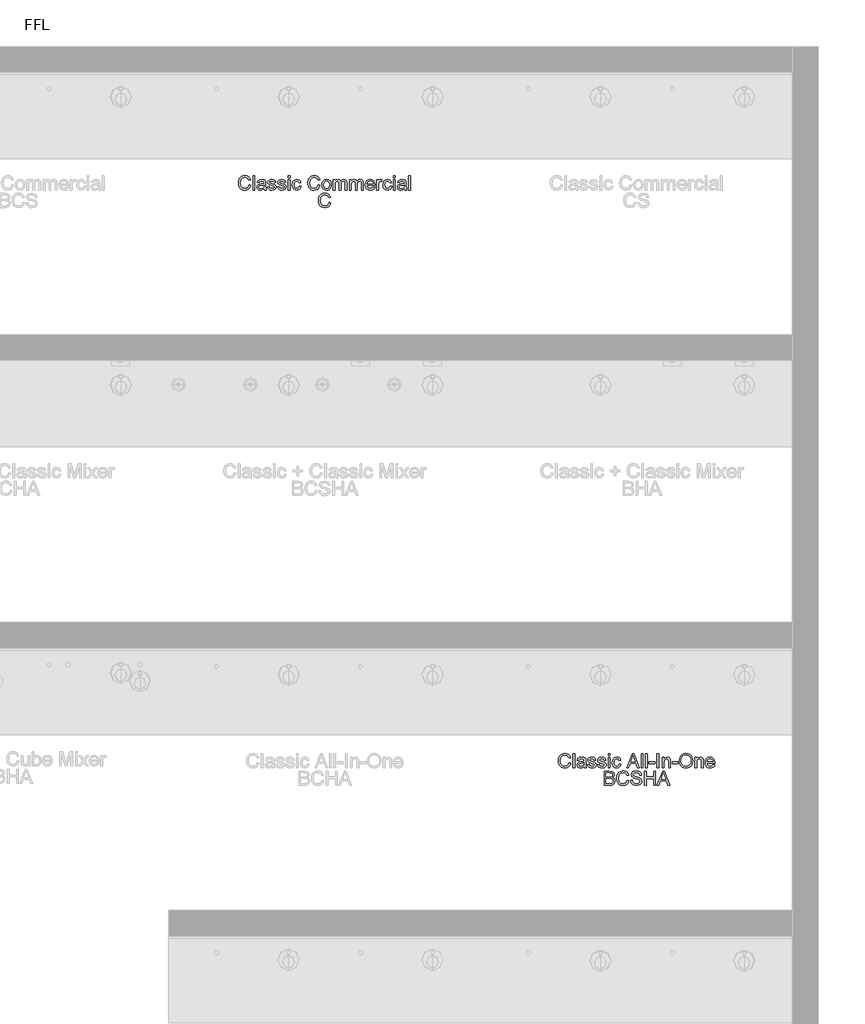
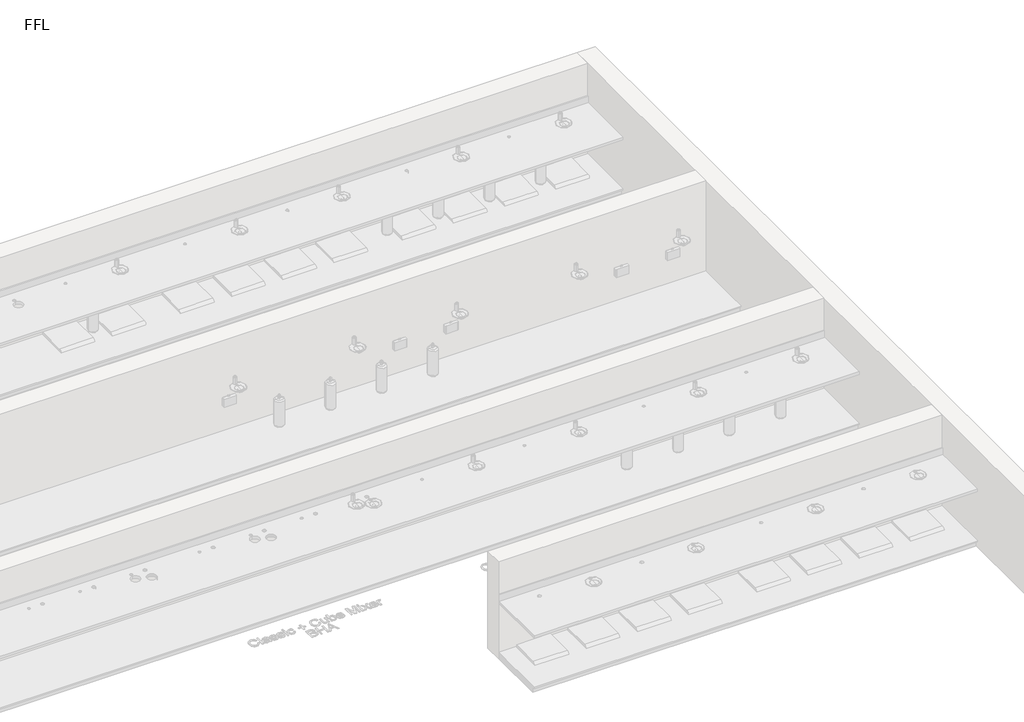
# One storey, part 12 of 13: 2 proxies.
"""IFC4 building model written with IfcOpenShell, lengths in millimetres."""

from ifc_helpers import new_model, si_unit, origin, origin_with_axes, place, context, project, spatial, polyline, outline, extrude, element, save

model = new_model("IFC4")

# Units and contexts
model_context = context("Model", 3, world=origin())
ifc_project = project(units=[si_unit("LENGTHUNIT", "METRE", prefix="MILLI")], contexts=[model_context])

# Site, building, storey
site = spatial("IfcSite", under=ifc_project)
building = spatial("IfcBuilding", under=site)
storey = spatial("IfcBuildingStorey", under=building, Name="FFL", Elevation=0.0)

# Proxies
placement = place(None, origin())
element("IfcBuildingElementProxy", 1, Name="150mm Arial", ObjectType="150mm Arial", at=placement, inside=storey, context=model_context, shape_type="SweptSolid", body=[
    extrude(outline(polyline([(10202.5723994, 657.2518309), (10221.0339379, 652.4922155), (10212.5153081, 630.9792948), (10199.1469187, 615.2626482), (10181.5868225, 605.648766), (10160.4930725, 602.4441386), (10139.0793105, 604.8690184), (10122.0736014, 612.1436578), (10109.0387456, 624.015653), (10099.5375437, 640.2326001), (10093.7367624, 659.2981049), (10091.8031687, 679.7157732), (10093.9891663, 701.2512299), (10100.5471591, 719.8479847), (10111.134599, 734.9155929), (10125.4089379, 745.8636097), (10142.3380244, 752.5297756), (10160.8897071, 754.7518309), (10181.1315941, 751.8762299), (10197.8668706, 743.249427), (10210.5726999, 729.4032732), (10218.7262456, 710.8696193), (10200.2647071, 706.4705809), (10193.8644667, 719.9336217), (10185.1204764, 729.1688982), (10173.9245629, 734.5099439), (10160.1685533, 736.2902924), (10144.3121831, 734.3161338), (10131.2863417, 728.3936578), (10121.4020268, 719.1448597), (10114.970236, 707.1917347), (10110.2647071, 679.7518309), (10115.8356206, 647.9489463), (10122.9570148, 636.0724439), (10133.1793706, 627.6304367), (10145.4344788, 622.5868669), (10158.6541302, 620.905677), (10174.0642865, 623.1953405), (10186.9053321, 630.0643309), (10196.6003441, 641.4405328), (10202.5723994, 657.2518309)])), origin_with_axes(), (0.0, 0.0, 1.0), 5.0),
    extrude(outline(polyline([(10244.110861, 604.7518309), (10244.110861, 752.4441386), (10262.5723994, 752.4441386), (10262.5723994, 604.7518309), (10244.110861, 604.7518309)])), origin_with_axes(), (0.0, 0.0, 1.0), 5.0),
    extrude(outline(polyline([(10359.4954764, 618.5979847), (10341.5928321, 606.0859655), (10321.8151879, 602.4441386), (10306.3870028, 604.6346434), (10295.0062937, 611.2061578), (10287.9885653, 621.1851242), (10285.6493225, 633.5979847), (10289.1829764, 648.2013501), (10298.4678321, 658.8023117), (10311.3945148, 664.860004), (10327.3680725, 667.6364463), (10359.3873033, 673.9826001), (10359.4954764, 678.093177), (10358.2244427, 686.3323597), (10354.4113417, 691.7229847), (10345.8836975, 695.7253886), (10334.0026879, 697.0595232), (10315.3248033, 693.5078405), (10306.4185533, 680.905677), (10287.9570148, 683.2133693), (10295.9437937, 701.2422155), (10312.0255244, 711.8071193), (10336.3824956, 715.5210617), (10358.7562937, 712.2398117), (10371.3945148, 704.000629), (10377.0555725, 691.4705809), (10377.9570148, 675.3167347), (10377.9570148, 652.3479847), (10378.8945148, 620.2746674), (10382.5723994, 604.7518309), (10364.110861, 604.7518309), (10359.4954764, 618.5979847)]), holes=[polyline([(10359.4954764, 655.5210617), (10329.7118225, 649.860004), (10313.8284091, 646.8672155), (10306.6348994, 641.999427), (10304.110861, 634.8960617), (10309.6096591, 624.9080809), (10325.7454764, 620.905677), (10344.423361, 625.3227443), (10356.4666302, 636.0138501), (10359.3873033, 650.2926963), (10359.4954764, 655.5210617)])]), origin_with_axes(), (0.0, 0.0, 1.0), 5.0),
    extrude(outline(polyline([(10396.4185533, 637.0595232), (10414.8800917, 639.3672155), (10417.7917504, 631.4705809), (10423.4257648, 625.6652924), (10443.0050917, 620.905677), (10461.8272071, 625.2686578), (10467.9570148, 635.5090424), (10461.7911494, 643.8023117), (10442.7887456, 649.0667347), (10414.9882648, 658.0991867), (10402.8548514, 668.6460617), (10398.7262456, 683.5378886), (10402.0435533, 697.2938982), (10411.0940341, 707.8047155), (10422.8308129, 713.2674559), (10438.7142264, 715.5210617), (10461.1781687, 711.8972636), (10475.4570148, 702.0895713), (10481.8031687, 685.5210617), (10463.3416302, 683.2133693), (10456.4005244, 693.3996674), (10440.1565341, 697.0595232), (10422.4882648, 693.561927), (10417.1877841, 685.4128886), (10419.3873033, 680.0402924), (10426.2743225, 675.9657732), (10442.1757648, 672.0354847), (10469.2731206, 663.3455809), (10481.8572552, 653.5018309), (10486.4185533, 637.4561578), (10481.063986, 619.7878886), (10465.6132648, 606.969379), (10442.7526879, 602.4441386), (10424.1379042, 604.625629), (10410.5531687, 611.1701001), (10401.4846591, 622.0054367), (10396.4185533, 637.0595232)])), origin_with_axes(), (0.0, 0.0, 1.0), 5.0),
    extrude(outline(polyline([(10500.2647071, 637.0595232), (10518.7262456, 639.3672155), (10521.6379042, 631.4705809), (10527.2719187, 625.6652924), (10546.8512456, 620.905677), (10565.673361, 625.2686578), (10571.8031687, 635.5090424), (10565.6373033, 643.8023117), (10546.6348994, 649.0667347), (10518.8344187, 658.0991867), (10506.7010052, 668.6460617), (10502.5723994, 683.5378886), (10505.8897071, 697.2938982), (10514.9401879, 707.8047155), (10526.6769667, 713.2674559), (10542.5603802, 715.5210617), (10565.0243225, 711.8972636), (10579.3031687, 702.0895713), (10585.6493225, 685.5210617), (10567.1877841, 683.2133693), (10560.2466783, 693.3996674), (10544.0026879, 697.0595232), (10526.3344187, 693.561927), (10521.0339379, 685.4128886), (10523.2334571, 680.0402924), (10530.1204764, 675.9657732), (10546.0219187, 672.0354847), (10573.1192744, 663.3455809), (10585.7034091, 653.5018309), (10590.2647071, 637.4561578), (10584.9101398, 619.7878886), (10569.4594187, 606.969379), (10546.5988417, 602.4441386), (10527.9840581, 604.625629), (10514.3993225, 611.1701001), (10505.3308129, 622.0054367), (10500.2647071, 637.0595232)])), origin_with_axes(), (0.0, 0.0, 1.0), 5.0),
    extrude(outline(polyline([(10611.0339379, 604.7518309), (10611.0339379, 713.2133693), (10629.4954764, 713.2133693), (10629.4954764, 604.7518309), (10611.0339379, 604.7518309)])), origin_with_axes(), (0.0, 0.0, 1.0), 5.0),
    extrude(outline(polyline([(10611.0339379, 733.9826001), (10611.0339379, 752.4441386), (10629.4954764, 752.4441386), (10629.4954764, 733.9826001), (10611.0339379, 733.9826001)])), origin_with_axes(), (0.0, 0.0, 1.0), 5.0),
    extrude(outline(polyline([(10726.4185533, 643.9826001), (10744.8800917, 641.6749078), (10739.7328562, 625.2551362), (10730.0603802, 612.8467828), (10716.7731206, 605.0447996), (10700.7815341, 602.4441386), (10681.1436134, 606.0724439), (10665.7875437, 616.9573597), (10655.8761855, 634.6211217), (10652.5723994, 658.5859655), (10658.2154283, 689.2530328), (10665.3368225, 700.7509294), (10675.4149475, 708.9585617), (10687.4717384, 713.8804367), (10700.5291302, 715.5210617), (10716.1285893, 713.2674559), (10728.6000437, 706.5066386), (10737.5468586, 695.5991867), (10742.5723994, 680.905677), (10724.110861, 678.5979847), (10715.5471591, 692.4261097), (10700.673361, 697.0595232), (10688.742772, 694.7788742), (10679.2731206, 687.936927), (10673.0937336, 676.1640905), (10671.0339379, 659.0907732), (10673.0486615, 641.7875881), (10679.0928321, 629.9741867), (10688.3912095, 623.1728044), (10700.1685533, 620.905677), (10709.728349, 622.3209415), (10717.5663898, 626.5667347), (10723.2680124, 633.7512299), (10726.4185533, 643.9826001)])), origin_with_axes(), (0.0, 0.0, 1.0), 5.0),
    extrude(outline(polyline([(10803.8344187, 604.7518309), (10862.7887456, 752.4441386), (10878.5098994, 752.4441386), (10937.4642264, 604.7518309), (10917.9570148, 604.7518309), (10901.0459571, 650.905677), (10840.2166302, 650.905677), (10823.3416302, 604.7518309), (10803.8344187, 604.7518309)]), holes=[polyline([(10846.9954764, 669.3672155), (10894.3031687, 669.3672155), (10880.9978802, 705.6773117), (10870.6493225, 733.9826001), (10861.454611, 708.8503886), (10846.9954764, 669.3672155)])]), origin_with_axes(), (0.0, 0.0, 1.0), 5.0),
    extrude(outline(polyline([(10954.8800917, 604.7518309), (10954.8800917, 752.4441386), (10973.3416302, 752.4441386), (10973.3416302, 604.7518309), (10954.8800917, 604.7518309)])), origin_with_axes(), (0.0, 0.0, 1.0), 5.0),
    extrude(outline(polyline([(11001.0339379, 604.7518309), (11001.0339379, 752.4441386), (11019.4954764, 752.4441386), (11019.4954764, 604.7518309), (11001.0339379, 604.7518309)])), origin_with_axes(), (0.0, 0.0, 1.0), 5.0),
    extrude(outline(polyline([(11037.9570148, 648.5979847), (11037.9570148, 667.0595232), (11095.6493225, 667.0595232), (11095.6493225, 648.5979847), (11037.9570148, 648.5979847)])), origin_with_axes(), (0.0, 0.0, 1.0), 5.0),
    extrude(outline(polyline([(11121.0339379, 604.7518309), (11121.0339379, 752.4441386), (11139.4954764, 752.4441386), (11139.4954764, 604.7518309), (11121.0339379, 604.7518309)])), origin_with_axes(), (0.0, 0.0, 1.0), 5.0),
    extrude(outline(polyline([(11174.110861, 604.7518309), (11174.110861, 713.2133693), (11192.5723994, 713.2133693), (11192.5723994, 698.0691386), (11206.688986, 711.1580809), (11225.9618225, 715.5210617), (11243.3957167, 712.0054367), (11255.2947552, 702.7746674), (11260.829611, 689.1989463), (11261.8031687, 671.3503886), (11261.8031687, 604.7518309), (11243.3416302, 604.7518309), (11243.3416302, 668.8624078), (11241.2142264, 685.1965424), (11233.6961975, 693.8323597), (11221.0219187, 697.0595232), (11210.2091182, 695.2476242), (11200.9918706, 689.811927), (11194.6772672, 679.3101242), (11192.5723994, 662.2999078), (11192.5723994, 604.7518309), (11174.110861, 604.7518309)])), origin_with_axes(), (0.0, 0.0, 1.0), 5.0),
    extrude(outline(polyline([(11277.9570148, 648.5979847), (11277.9570148, 667.0595232), (11335.6493225, 667.0595232), (11335.6493225, 648.5979847), (11277.9570148, 648.5979847)])), origin_with_axes(), (0.0, 0.0, 1.0), 5.0),
    extrude(outline(polyline([(11351.8031687, 676.6508693), (11356.7250437, 709.3101242), (11371.4906687, 734.0186578), (11394.0357408, 749.5685376), (11422.2959571, 754.7518309), (11441.6679523, 752.3179367), (11459.0387456, 745.016254), (11473.4618225, 733.3606049), (11483.9906687, 717.8648117), (11490.4269667, 699.2770713), (11492.5723994, 678.3455809), (11490.3142865, 657.1346434), (11483.5399475, 638.2854847), (11472.6234812, 622.7626482), (11457.938986, 611.530677), (11440.7169307, 604.7157732), (11422.1877841, 602.4441386), (11402.5183129, 604.9546554), (11385.048361, 612.4862059), (11370.6613417, 624.3582011), (11360.2406687, 639.890052), (11353.9125437, 657.7611458), (11351.8031687, 676.6508693)]), holes=[polyline([(11370.2647071, 676.4705809), (11373.9561134, 653.3666145), (11385.0303321, 635.7614463), (11401.6754643, 624.6196193), (11422.079611, 620.905677), (11442.7812336, 624.655677), (11459.4534091, 635.905677), (11470.446498, 654.0517107), (11474.110861, 678.4898117), (11472.5423514, 694.8329607), (11467.8368225, 708.9585617), (11460.1159691, 720.5105448), (11449.501486, 729.1328405), (11436.696498, 734.5009294), (11422.4041302, 736.2902924), (11402.5453562, 732.8422756), (11385.6613417, 722.4982251), (11374.1138658, 704.0952804), (11370.2647071, 676.4705809)])]), origin_with_axes(), (0.0, 0.0, 1.0), 5.0),
    extrude(outline(polyline([(11515.6493225, 604.7518309), (11515.6493225, 713.2133693), (11534.110861, 713.2133693), (11534.110861, 698.0691386), (11548.2274475, 711.1580809), (11567.5002841, 715.5210617), (11584.9341783, 712.0054367), (11596.8332167, 702.7746674), (11602.3680725, 689.1989463), (11603.3416302, 671.3503886), (11603.3416302, 604.7518309), (11584.8800917, 604.7518309), (11584.8800917, 668.8624078), (11582.7526879, 685.1965424), (11575.2346591, 693.8323597), (11562.5603802, 697.0595232), (11551.7475797, 695.2476242), (11542.5303321, 689.811927), (11536.2157288, 679.3101242), (11534.110861, 662.2999078), (11534.110861, 604.7518309), (11515.6493225, 604.7518309)])), origin_with_axes(), (0.0, 0.0, 1.0), 5.0),
    extrude(outline(polyline([(11704.6637456, 637.0595232), (11722.7647071, 634.7518309), (11716.242772, 621.1130088), (11705.8356206, 610.9176963), (11691.7776278, 604.562528), (11674.3031687, 602.4441386), (11652.64151, 606.0994871), (11635.9738417, 617.0655328), (11625.3458369, 634.6301362), (11621.8031687, 658.0811578), (11625.3818946, 682.3209415), (11636.1180725, 700.4489463), (11652.5603802, 711.7530328), (11673.2574956, 715.5210617), (11693.3100797, 711.7620472), (11709.3332167, 700.485004), (11719.8395268, 682.3930568), (11723.3416302, 658.1893309), (11723.2334571, 653.2133693), (11640.2647071, 653.2133693), (11643.4603201, 639.3942588), (11650.8836975, 629.235004), (11661.5973393, 622.9880088), (11674.6637456, 620.905677), (11692.7647071, 624.7638501), (11704.6637456, 637.0595232)]), holes=[polyline([(11640.2647071, 671.6749078), (11704.8800917, 671.6749078), (11702.3830966, 681.4285136), (11697.4882648, 688.405677), (11686.7250437, 694.8960617), (11673.1853802, 697.0595232), (11660.7409691, 695.3332612), (11650.4510052, 690.1544751), (11643.2980605, 682.0820592), (11640.2647071, 671.6749078)])]), origin_with_axes(), (0.0, 0.0, 1.0), 5.0),
    extrude(outline(polyline([(10569.4954764, 422.4441386), (10569.4954764, 570.1364463), (10625.8536494, 570.1364463), (10653.4558129, 565.7914943), (10662.7316542, 560.2791746), (10669.7538898, 552.4321193), (10675.6493225, 533.5378886), (10670.6913898, 516.2842828), (10655.7094187, 503.2133693), (10666.1706566, 497.750629), (10673.9005244, 489.4393309), (10678.6736615, 478.8293549), (10680.2647071, 466.4705809), (10675.9197552, 446.6208213), (10665.1565341, 432.4862059), (10649.0928321, 424.9862059), (10625.4209571, 422.4441386), (10569.4954764, 422.4441386)]), holes=[polyline([(10587.9570148, 440.905677), (10625.8175917, 440.905677), (10639.5195148, 441.6268309), (10651.1120629, 445.6472636), (10658.7923514, 453.8503886), (10661.8031687, 466.2902924), (10658.2695148, 480.641254), (10646.8211975, 489.2049559), (10624.0147071, 491.6749078), (10587.9570148, 491.6749078), (10587.9570148, 440.905677)]), polyline([(10587.9570148, 510.1364463), (10621.6709571, 510.1364463), (10641.3584571, 511.7229847), (10653.2034091, 518.5559174), (10657.1877841, 530.5811578), (10653.4738417, 542.624427), (10642.8368225, 549.7458213), (10619.110861, 551.6749078), (10587.9570148, 551.6749078), (10587.9570148, 510.1364463)])]), origin_with_axes(), (0.0, 0.0, 1.0), 5.0),
    extrude(outline(polyline([(10809.4954764, 474.9441386), (10827.9570148, 470.1845232), (10819.438385, 448.6716025), (10806.0699956, 432.9549559), (10788.5098994, 423.3410737), (10767.4161494, 420.1364463), (10746.0023874, 422.5613261), (10728.9966783, 429.8359655), (10715.9618225, 441.7079607), (10706.4606206, 457.9249078), (10700.6598393, 476.9904126), (10698.7262456, 497.4080809), (10700.9122432, 518.9435376), (10707.470236, 537.5402924), (10718.0576759, 552.6079006), (10732.3320148, 563.5559174), (10749.2611014, 570.2220833), (10767.8127841, 572.4441386), (10788.0546711, 569.5685376), (10804.7899475, 560.9417347), (10817.4957768, 547.0955809), (10825.6493225, 528.561927), (10807.1877841, 524.1628886), (10800.7875437, 537.6259294), (10792.0435533, 546.8612059), (10780.8476398, 552.2022516), (10767.0916302, 553.9826001), (10751.23526, 552.0084415), (10738.2094187, 546.0859655), (10728.3251038, 536.8371674), (10721.8933129, 524.8840424), (10717.1877841, 497.4441386), (10722.7586975, 465.641254), (10729.8800917, 453.7647516), (10740.1024475, 445.3227443), (10752.3575557, 440.2791746), (10765.5772071, 438.5979847), (10780.9873634, 440.8876482), (10793.8284091, 447.7566386), (10803.5234211, 459.1328405), (10809.4954764, 474.9441386)])), origin_with_axes(), (0.0, 0.0, 1.0), 5.0),
    extrude(outline(polyline([(10846.4185533, 473.2133693), (10864.8800917, 473.2133693), (10870.829611, 454.733802), (10885.360861, 443.0511097), (10907.5002841, 438.5979847), (10926.7911494, 441.969379), (10939.2490821, 451.2362059), (10943.3416302, 463.6220232), (10940.2767264, 475.1424559), (10927.7286494, 483.5258693), (10900.8476398, 490.5751482), (10871.9113417, 499.6797155), (10856.2082167, 513.4176963), (10851.0339379, 531.7710617), (10852.633998, 542.5838621), (10857.4341783, 552.6664943), (10865.3082768, 561.2121674), (10876.1300917, 567.4140905), (10903.4978802, 572.4441386), (10932.704611, 567.1797155), (10943.9005244, 560.6803165), (10952.1757648, 551.7109655), (10957.4131446, 540.8305568), (10959.4954764, 528.5979847), (10941.0339379, 528.5979847), (10937.6445148, 539.6136097), (10930.5772071, 547.5643309), (10919.5345389, 552.3780328), (10904.2190341, 553.9826001), (10888.5429523, 552.3960617), (10877.7887456, 547.6364463), (10871.5687937, 540.6322395), (10869.4954764, 532.311927), (10870.9648273, 525.2175761), (10875.3728802, 519.5114463), (10905.517111, 509.1989463), (10938.1853802, 499.9321193), (10948.7097191, 493.234403), (10956.0519667, 484.968177), (10961.8031687, 464.0907732), (10960.149022, 452.7100641), (10955.1865821, 442.0054367), (10947.1186735, 432.7926963), (10936.1481206, 425.8876482), (10908.2214379, 420.1364463), (10890.133998, 421.686927), (10875.2466783, 426.3383693), (10863.3882047, 434.108802), (10854.3873033, 445.016254), (10848.6090581, 458.3035136), (10846.4185533, 473.2133693)])), origin_with_axes(), (0.0, 0.0, 1.0), 5.0),
    extrude(outline(polyline([(10989.4954764, 422.4441386), (10989.4954764, 570.1364463), (11007.9570148, 570.1364463), (11007.9570148, 510.1364463), (11086.4185533, 510.1364463), (11086.4185533, 570.1364463), (11104.8800917, 570.1364463), (11104.8800917, 422.4441386), (11086.4185533, 422.4441386), (11086.4185533, 491.6749078), (11007.9570148, 491.6749078), (11007.9570148, 422.4441386), (10989.4954764, 422.4441386)])), origin_with_axes(), (0.0, 0.0, 1.0), 5.0),
    extrude(outline(polyline([(11119.9882648, 422.4441386), (11178.9425917, 570.1364463), (11194.6637456, 570.1364463), (11253.6180725, 422.4441386), (11234.110861, 422.4441386), (11217.1998033, 468.5979847), (11156.3704764, 468.5979847), (11139.4954764, 422.4441386), (11119.9882648, 422.4441386)]), holes=[polyline([(11163.1493225, 487.0595232), (11210.4570148, 487.0595232), (11197.1517264, 523.3696193), (11186.8031687, 551.6749078), (11177.6084571, 526.5426963), (11163.1493225, 487.0595232)])]), origin_with_axes(), (0.0, 0.0, 1.0), 5.0),
])
element("IfcBuildingElementProxy", 2, Name="150mm Arial", ObjectType="150mm Arial", at=placement, inside=storey, context=model_context, shape_type="SweptSolid", body=[
    extrude(outline(polyline([(6867.1877841, 6676.3018309), (6885.6493225, 6671.5422155), (6877.1306927, 6650.0292948), (6863.7623033, 6634.3126482), (6846.2022071, 6624.698766), (6825.1084571, 6621.4941386), (6803.6946951, 6623.9190184), (6786.688986, 6631.1936578), (6773.6541302, 6643.065653), (6764.1529283, 6659.2826001), (6758.352147, 6678.3481049), (6756.4185533, 6698.7657732), (6758.6045509, 6720.3012299), (6765.1625437, 6738.8979847), (6775.7499836, 6753.9655929), (6790.0243225, 6764.9136097), (6806.9534091, 6771.5797756), (6825.5050917, 6773.8018309), (6845.7469788, 6770.9262299), (6862.4822552, 6762.299427), (6875.1880845, 6748.4532732), (6883.3416302, 6729.9196193), (6864.8800917, 6725.5205809), (6858.4798514, 6738.9836217), (6849.735861, 6748.2188982), (6838.5399475, 6753.5599439), (6824.7839379, 6755.3402924), (6808.9275677, 6753.3661338), (6795.9017264, 6747.4436578), (6786.0174115, 6738.1948597), (6779.5856206, 6726.2417347), (6774.8800917, 6698.8018309), (6780.4510052, 6666.9989463), (6787.5723994, 6655.1224439), (6797.7947552, 6646.6804367), (6810.0498634, 6641.6368669), (6823.2695148, 6639.955677), (6838.6796711, 6642.2453405), (6851.5207167, 6649.1143309), (6861.2157288, 6660.4905328), (6867.1877841, 6676.3018309)])), origin_with_axes(), (0.0, 0.0, 1.0), 5.0),
    extrude(outline(polyline([(6908.7262456, 6623.8018309), (6908.7262456, 6771.4941386), (6927.1877841, 6771.4941386), (6927.1877841, 6623.8018309), (6908.7262456, 6623.8018309)])), origin_with_axes(), (0.0, 0.0, 1.0), 5.0),
    extrude(outline(polyline([(7024.110861, 6637.6479847), (7006.2082167, 6625.1359655), (6986.4305725, 6621.4941386), (6971.0023874, 6623.6846434), (6959.6216783, 6630.2561578), (6952.6039499, 6640.2351242), (6950.2647071, 6652.6479847), (6953.798361, 6667.2513501), (6963.0832167, 6677.8523117), (6976.0098994, 6683.910004), (6991.9834571, 6686.6864463), (7024.0026879, 6693.0326001), (7024.110861, 6697.143177), (7022.8398273, 6705.3823597), (7019.0267264, 6710.7729847), (7010.4990821, 6714.7753886), (6998.6180725, 6716.1095232), (6979.9401879, 6712.5578405), (6971.0339379, 6699.955677), (6952.5723994, 6702.2633693), (6960.5591783, 6720.2922155), (6976.6409091, 6730.8571193), (7000.9978802, 6734.5710617), (7023.3716783, 6731.2898117), (7036.0098994, 6723.050629), (7041.6709571, 6710.5205809), (7042.5723994, 6694.3667347), (7042.5723994, 6671.3979847), (7043.5098994, 6639.3246674), (7047.1877841, 6623.8018309), (7028.7262456, 6623.8018309), (7024.110861, 6637.6479847)]), holes=[polyline([(7024.110861, 6674.5710617), (6994.3272071, 6668.910004), (6978.4437937, 6665.9172155), (6971.2502841, 6661.049427), (6968.7262456, 6653.9460617), (6974.2250437, 6643.9580809), (6990.360861, 6639.955677), (7009.0387456, 6644.3727443), (7021.0820148, 6655.0638501), (7024.0026879, 6669.3426963), (7024.110861, 6674.5710617)])]), origin_with_axes(), (0.0, 0.0, 1.0), 5.0),
    extrude(outline(polyline([(7061.0339379, 6656.1095232), (7079.4954764, 6658.4172155), (7082.407135, 6650.5205809), (7088.0411494, 6644.7152924), (7107.6204764, 6639.955677), (7126.4425917, 6644.3186578), (7132.5723994, 6654.5590424), (7126.4065341, 6662.8523117), (7107.4041302, 6668.1167347), (7079.6036494, 6677.1491867), (7067.470236, 6687.6960617), (7063.3416302, 6702.5878886), (7066.6589379, 6716.3438982), (7075.7094187, 6726.8547155), (7087.4461975, 6732.3174559), (7103.329611, 6734.5710617), (7125.7935533, 6730.9472636), (7140.0723994, 6721.1395713), (7146.4185533, 6704.5710617), (7127.9570148, 6702.2633693), (7121.0159091, 6712.4496674), (7104.7719187, 6716.1095232), (7087.1036494, 6712.611927), (7081.8031687, 6704.4628886), (7084.0026879, 6699.0902924), (7090.8897071, 6695.0157732), (7106.7911494, 6691.0854847), (7133.8885052, 6682.3955809), (7146.4726398, 6672.5518309), (7151.0339379, 6656.5061578), (7145.6793706, 6638.8378886), (7130.2286494, 6626.019379), (7107.3680725, 6621.4941386), (7088.7532889, 6623.675629), (7075.1685533, 6630.2201001), (7066.1000437, 6641.0554367), (7061.0339379, 6656.1095232)])), origin_with_axes(), (0.0, 0.0, 1.0), 5.0),
    extrude(outline(polyline([(7164.8800917, 6656.1095232), (7183.3416302, 6658.4172155), (7186.2532889, 6650.5205809), (7191.8873033, 6644.7152924), (7211.4666302, 6639.955677), (7230.2887456, 6644.3186578), (7236.4185533, 6654.5590424), (7230.2526879, 6662.8523117), (7211.2502841, 6668.1167347), (7183.4498033, 6677.1491867), (7171.3163898, 6687.6960617), (7167.1877841, 6702.5878886), (7170.5050917, 6716.3438982), (7179.5555725, 6726.8547155), (7191.2923514, 6732.3174559), (7207.1757648, 6734.5710617), (7229.6397071, 6730.9472636), (7243.9185533, 6721.1395713), (7250.2647071, 6704.5710617), (7231.8031687, 6702.2633693), (7224.8620629, 6712.4496674), (7208.6180725, 6716.1095232), (7190.9498033, 6712.611927), (7185.6493225, 6704.4628886), (7187.8488417, 6699.0902924), (7194.735861, 6695.0157732), (7210.6373033, 6691.0854847), (7237.7346591, 6682.3955809), (7250.3187937, 6672.5518309), (7254.8800917, 6656.5061578), (7249.5255244, 6638.8378886), (7234.0748033, 6626.019379), (7211.2142264, 6621.4941386), (7192.5994427, 6623.675629), (7179.0147071, 6630.2201001), (7169.9461975, 6641.0554367), (7164.8800917, 6656.1095232)])), origin_with_axes(), (0.0, 0.0, 1.0), 5.0),
    extrude(outline(polyline([(7275.6493225, 6623.8018309), (7275.6493225, 6732.2633693), (7294.110861, 6732.2633693), (7294.110861, 6623.8018309), (7275.6493225, 6623.8018309)])), origin_with_axes(), (0.0, 0.0, 1.0), 5.0),
    extrude(outline(polyline([(7275.6493225, 6753.0326001), (7275.6493225, 6771.4941386), (7294.110861, 6771.4941386), (7294.110861, 6753.0326001), (7275.6493225, 6753.0326001)])), origin_with_axes(), (0.0, 0.0, 1.0), 5.0),
    extrude(outline(polyline([(7391.0339379, 6663.0326001), (7409.4954764, 6660.7249078), (7404.3482408, 6644.3051362), (7394.6757648, 6631.8967828), (7381.3885052, 6624.0947996), (7365.3969187, 6621.4941386), (7345.758998, 6625.1224439), (7330.4029283, 6636.0073597), (7320.4915701, 6653.6711217), (7317.1877841, 6677.6359655), (7322.8308129, 6708.3030328), (7329.9522071, 6719.8009294), (7340.0303321, 6728.0085617), (7352.087123, 6732.9304367), (7365.1445148, 6734.5710617), (7380.743974, 6732.3174559), (7393.2154283, 6725.5566386), (7402.1622432, 6714.6491867), (7407.1877841, 6699.955677), (7388.7262456, 6697.6479847), (7380.1625437, 6711.4761097), (7365.2887456, 6716.1095232), (7353.3581566, 6713.8288742), (7343.8885052, 6706.986927), (7337.7091182, 6695.2140905), (7335.6493225, 6678.1407732), (7337.6640461, 6660.8375881), (7343.7082167, 6649.0241867), (7353.0065941, 6642.2228044), (7364.7839379, 6639.955677), (7374.3437336, 6641.3709415), (7382.1817744, 6645.6167347), (7387.883397, 6652.8012299), (7391.0339379, 6663.0326001)])), origin_with_axes(), (0.0, 0.0, 1.0), 5.0),
    extrude(outline(polyline([(7589.4954764, 6676.3018309), (7607.9570148, 6671.5422155), (7599.438385, 6650.0292948), (7586.0699956, 6634.3126482), (7568.5098994, 6624.698766), (7547.4161494, 6621.4941386), (7526.0023874, 6623.9190184), (7508.9966783, 6631.1936578), (7495.9618225, 6643.065653), (7486.4606206, 6659.2826001), (7480.6598393, 6678.3481049), (7478.7262456, 6698.7657732), (7480.9122432, 6720.3012299), (7487.470236, 6738.8979847), (7498.0576759, 6753.9655929), (7512.3320148, 6764.9136097), (7529.2611014, 6771.5797756), (7547.8127841, 6773.8018309), (7568.0546711, 6770.9262299), (7584.7899475, 6762.299427), (7597.4957768, 6748.4532732), (7605.6493225, 6729.9196193), (7587.1877841, 6725.5205809), (7580.7875437, 6738.9836217), (7572.0435533, 6748.2188982), (7560.8476398, 6753.5599439), (7547.0916302, 6755.3402924), (7531.23526, 6753.3661338), (7518.2094187, 6747.4436578), (7508.3251038, 6738.1948597), (7501.8933129, 6726.2417347), (7497.1877841, 6698.8018309), (7502.7586975, 6666.9989463), (7509.8800917, 6655.1224439), (7520.1024475, 6646.6804367), (7532.3575557, 6641.6368669), (7545.5772071, 6639.955677), (7560.9873634, 6642.2453405), (7573.8284091, 6649.1143309), (7583.5234211, 6660.4905328), (7589.4954764, 6676.3018309)])), origin_with_axes(), (0.0, 0.0, 1.0), 5.0),
    extrude(outline(polyline([(7626.4185533, 6678.0326001), (7630.4119427, 6704.1834415), (7642.392111, 6722.5638501), (7657.1937937, 6731.5692588), (7674.9161494, 6734.5710617), (7694.3106807, 6730.9157131), (7709.8019667, 6719.9496674), (7719.9567143, 6702.5383092), (7723.3416302, 6679.5470232), (7721.845236, 6660.8961818), (7717.3560533, 6646.6984655), (7710.0047913, 6636.0659535), (7699.9221591, 6628.1107251), (7687.946498, 6623.1482852), (7674.9161494, 6621.4941386), (7655.2872432, 6625.1359655), (7639.813986, 6636.0614463), (7629.7674115, 6653.8378886), (7626.4185533, 6678.0326001)]), holes=[polyline([(7644.8800917, 6678.0686578), (7647.01651, 6661.3604246), (7653.4257648, 6649.456879), (7663.0711975, 6642.3309775), (7674.9161494, 6639.955677), (7686.7070148, 6642.3444992), (7696.3344187, 6649.5109655), (7702.7436735, 6661.5722636), (7704.8800917, 6678.6455809), (7702.7301518, 6694.8670352), (7696.2803321, 6706.6083213), (7686.6394066, 6713.7342227), (7674.9161494, 6716.1095232), (7663.0711975, 6713.7432371), (7653.4257648, 6706.644379), (7647.01651, 6694.7678766), (7644.8800917, 6678.0686578)])]), origin_with_axes(), (0.0, 0.0, 1.0), 5.0),
    extrude(outline(polyline([(7744.110861, 6623.8018309), (7744.110861, 6732.2633693), (7762.5723994, 6732.2633693), (7762.5723994, 6714.4148117), (7775.2647071, 6729.0362059), (7793.329611, 6734.5710617), (7803.5970389, 6733.1603044), (7811.8272071, 6728.9280328), (7821.9954764, 6713.1167347), (7836.4005244, 6729.2074799), (7854.5916302, 6734.5710617), (7868.4693345, 6732.3399919), (7878.7322552, 6725.6467828), (7885.0739018, 6714.3111458), (7887.1877841, 6698.1527924), (7887.1877841, 6623.8018309), (7868.7262456, 6623.8018309), (7868.7262456, 6690.2201001), (7867.0135052, 6705.6347636), (7860.8115821, 6713.2249078), (7850.2647071, 6716.1095232), (7840.2632047, 6714.2615665), (7832.1096591, 6708.7176963), (7826.6874836, 6699.0993068), (7824.8800917, 6685.0277924), (7824.8800917, 6623.8018309), (7806.4185533, 6623.8018309), (7806.4185533, 6692.2753886), (7802.1457167, 6710.160004), (7796.5071951, 6714.6221434), (7788.1373033, 6716.1095232), (7774.4714379, 6712.143177), (7765.3848994, 6700.5326001), (7762.5723994, 6678.5013501), (7762.5723994, 6623.8018309), (7744.110861, 6623.8018309)])), origin_with_axes(), (0.0, 0.0, 1.0), 5.0),
    extrude(outline(polyline([(7914.8800917, 6623.8018309), (7914.8800917, 6732.2633693), (7933.3416302, 6732.2633693), (7933.3416302, 6714.4148117), (7946.0339379, 6729.0362059), (7964.0988417, 6734.5710617), (7974.3662696, 6733.1603044), (7982.5964379, 6728.9280328), (7992.7647071, 6713.1167347), (8007.1697552, 6729.2074799), (8025.360861, 6734.5710617), (8039.2385653, 6732.3399919), (8049.501486, 6725.6467828), (8055.8431326, 6714.3111458), (8057.9570148, 6698.1527924), (8057.9570148, 6623.8018309), (8039.4954764, 6623.8018309), (8039.4954764, 6690.2201001), (8037.782736, 6705.6347636), (8031.5808129, 6713.2249078), (8021.0339379, 6716.1095232), (8011.0324355, 6714.2615665), (8002.8788898, 6708.7176963), (7997.4567143, 6699.0993068), (7995.6493225, 6685.0277924), (7995.6493225, 6623.8018309), (7977.1877841, 6623.8018309), (7977.1877841, 6692.2753886), (7972.9149475, 6710.160004), (7967.2764259, 6714.6221434), (7958.9065341, 6716.1095232), (7945.2406687, 6712.143177), (7936.1541302, 6700.5326001), (7933.3416302, 6678.5013501), (7933.3416302, 6623.8018309), (7914.8800917, 6623.8018309)])), origin_with_axes(), (0.0, 0.0, 1.0), 5.0),
    extrude(outline(polyline([(8161.5868225, 6656.1095232), (8179.6877841, 6653.8018309), (8173.165849, 6640.1630088), (8162.7586975, 6629.9676963), (8148.7007047, 6623.612528), (8131.2262456, 6621.4941386), (8109.5645869, 6625.1494871), (8092.8969187, 6636.1155328), (8082.2689139, 6653.6801362), (8078.7262456, 6677.1311578), (8082.3049716, 6701.3709415), (8093.0411494, 6719.4989463), (8109.4834571, 6730.8030328), (8130.1805725, 6734.5710617), (8150.2331566, 6730.8120472), (8166.2562937, 6719.535004), (8176.7626038, 6701.4430568), (8180.2647071, 6677.2393309), (8180.1565341, 6672.2633693), (8097.1877841, 6672.2633693), (8100.383397, 6658.4442588), (8107.8067744, 6648.285004), (8118.5204163, 6642.0380088), (8131.5868225, 6639.955677), (8149.6877841, 6643.8138501), (8161.5868225, 6656.1095232)]), holes=[polyline([(8097.1877841, 6690.7249078), (8161.8031687, 6690.7249078), (8159.3061735, 6700.4785136), (8154.4113417, 6707.455677), (8143.6481206, 6713.9460617), (8130.1084571, 6716.1095232), (8117.6640461, 6714.3832612), (8107.3740821, 6709.2044751), (8100.2211374, 6701.1320592), (8097.1877841, 6690.7249078)])]), origin_with_axes(), (0.0, 0.0, 1.0), 5.0),
    extrude(outline(polyline([(8198.7262456, 6623.8018309), (8198.7262456, 6732.2633693), (8214.8800917, 6732.2633693), (8214.8800917, 6716.2176963), (8226.3464379, 6731.0013501), (8237.8848994, 6734.5710617), (8256.4185533, 6728.8739463), (8250.2526879, 6712.3234655), (8237.2719187, 6716.1095232), (8226.8332167, 6712.4676963), (8220.1805725, 6702.3715424), (8217.1877841, 6680.8090424), (8217.1877841, 6623.8018309), (8198.7262456, 6623.8018309)])), origin_with_axes(), (0.0, 0.0, 1.0), 5.0),
    extrude(outline(polyline([(8337.1877841, 6663.0326001), (8355.6493225, 6660.7249078), (8350.5020869, 6644.3051362), (8340.829611, 6631.8967828), (8327.5423514, 6624.0947996), (8311.5507648, 6621.4941386), (8291.9128441, 6625.1224439), (8276.5567744, 6636.0073597), (8266.6454163, 6653.6711217), (8263.3416302, 6677.6359655), (8268.9846591, 6708.3030328), (8276.1060533, 6719.8009294), (8286.1841783, 6728.0085617), (8298.2409691, 6732.9304367), (8311.298361, 6734.5710617), (8326.8978201, 6732.3174559), (8339.3692744, 6725.5566386), (8348.3160893, 6714.6491867), (8353.3416302, 6699.955677), (8334.8800917, 6697.6479847), (8326.3163898, 6711.4761097), (8311.4425917, 6716.1095232), (8299.5120028, 6713.8288742), (8290.0423514, 6706.986927), (8283.8629643, 6695.2140905), (8281.8031687, 6678.1407732), (8283.8178922, 6660.8375881), (8289.8620629, 6649.0241867), (8299.1604403, 6642.2228044), (8310.9377841, 6639.955677), (8320.4975797, 6641.3709415), (8328.3356206, 6645.6167347), (8334.0372432, 6652.8012299), (8337.1877841, 6663.0326001)])), origin_with_axes(), (0.0, 0.0, 1.0), 5.0),
    extrude(outline(polyline([(8371.8031687, 6623.8018309), (8371.8031687, 6732.2633693), (8390.2647071, 6732.2633693), (8390.2647071, 6623.8018309), (8371.8031687, 6623.8018309)])), origin_with_axes(), (0.0, 0.0, 1.0), 5.0),
    extrude(outline(polyline([(8371.8031687, 6753.0326001), (8371.8031687, 6771.4941386), (8390.2647071, 6771.4941386), (8390.2647071, 6753.0326001), (8371.8031687, 6753.0326001)])), origin_with_axes(), (0.0, 0.0, 1.0), 5.0),
    extrude(outline(polyline([(8487.1877841, 6637.6479847), (8469.2851398, 6625.1359655), (8449.5074956, 6621.4941386), (8434.0793105, 6623.6846434), (8422.6986014, 6630.2561578), (8415.680873, 6640.2351242), (8413.3416302, 6652.6479847), (8416.8752841, 6667.2513501), (8426.1601398, 6677.8523117), (8439.0868225, 6683.910004), (8455.0603802, 6686.6864463), (8487.079611, 6693.0326001), (8487.1877841, 6697.143177), (8485.9167504, 6705.3823597), (8482.1036494, 6710.7729847), (8473.5760052, 6714.7753886), (8461.6949956, 6716.1095232), (8443.017111, 6712.5578405), (8434.110861, 6699.955677), (8415.6493225, 6702.2633693), (8423.6361014, 6720.2922155), (8439.7178321, 6730.8571193), (8464.0748033, 6734.5710617), (8486.4486014, 6731.2898117), (8499.0868225, 6723.050629), (8504.7478802, 6710.5205809), (8505.6493225, 6694.3667347), (8505.6493225, 6671.3979847), (8506.5868225, 6639.3246674), (8510.2647071, 6623.8018309), (8491.8031687, 6623.8018309), (8487.1877841, 6637.6479847)]), holes=[polyline([(8487.1877841, 6674.5710617), (8457.4041302, 6668.910004), (8441.5207167, 6665.9172155), (8434.3272071, 6661.049427), (8431.8031687, 6653.9460617), (8437.3019667, 6643.9580809), (8453.4377841, 6639.955677), (8472.1156687, 6644.3727443), (8484.1589379, 6655.0638501), (8487.079611, 6669.3426963), (8487.1877841, 6674.5710617)])]), origin_with_axes(), (0.0, 0.0, 1.0), 5.0),
    extrude(outline(polyline([(8531.0339379, 6623.8018309), (8531.0339379, 6771.4941386), (8549.4954764, 6771.4941386), (8549.4954764, 6623.8018309), (8531.0339379, 6623.8018309)])), origin_with_axes(), (0.0, 0.0, 1.0), 5.0),
    extrude(outline(polyline([(7701.4185533, 6493.9941386), (7719.8800917, 6489.2345232), (7711.3614619, 6467.7216025), (7697.9930725, 6452.0049559), (7680.4329764, 6442.3910737), (7659.3392264, 6439.1864463), (7637.9254643, 6441.6113261), (7620.9197552, 6448.8859655), (7607.8848994, 6460.7579607), (7598.3836975, 6476.9749078), (7592.5829163, 6496.0404126), (7590.6493225, 6516.4580809), (7592.8353201, 6537.9935376), (7599.3933129, 6556.5902924), (7609.9807528, 6571.6579006), (7624.2550917, 6582.6059174), (7641.1841783, 6589.2720833), (7659.735861, 6591.4941386), (7679.977748, 6588.6185376), (7696.7130244, 6579.9917347), (7709.4188538, 6566.1455809), (7717.5723994, 6547.611927), (7699.110861, 6543.2128886), (7692.7106206, 6556.6759294), (7683.9666302, 6565.9112059), (7672.7707167, 6571.2522516), (7659.0147071, 6573.0326001), (7643.1583369, 6571.0584415), (7630.1324956, 6565.1359655), (7620.2481807, 6555.8871674), (7613.8163898, 6543.9340424), (7609.110861, 6516.4941386), (7614.6817744, 6484.691254), (7621.8031687, 6472.8147516), (7632.0255244, 6464.3727443), (7644.2806326, 6459.3291746), (7657.5002841, 6457.6479847), (7672.9104403, 6459.9376482), (7685.751486, 6466.8066386), (7695.446498, 6478.1828405), (7701.4185533, 6493.9941386)])), origin_with_axes(), (0.0, 0.0, 1.0), 5.0),
])

save(model, "model.ifc")
